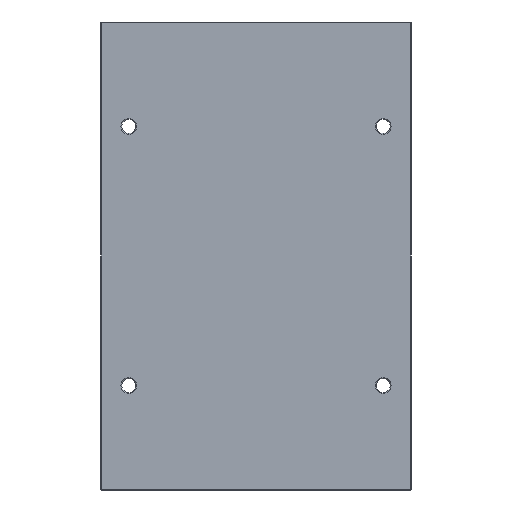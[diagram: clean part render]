
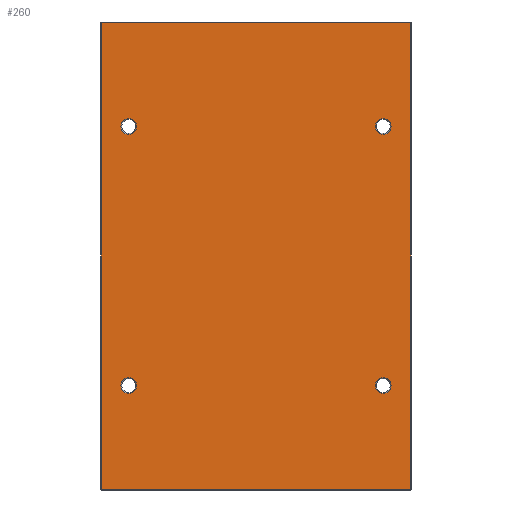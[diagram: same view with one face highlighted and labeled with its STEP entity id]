
A CAD part, front view. The second image highlights one B-rep face of the part: STEP entity #260.
In plain terms, the highlighted planar face has unit normal (0, -1, 0).
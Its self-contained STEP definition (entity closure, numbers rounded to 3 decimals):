
#4 = EDGE_CURVE ( 'NONE', #1602, #1121, #1631, .T. ) ;
#32 = VERTEX_POINT ( 'NONE', #924 ) ;
#42 = DIRECTION ( 'NONE',  ( 0., 0., 1. ) ) ;
#51 = ORIENTED_EDGE ( 'NONE', *, *, #372, .T. ) ;
#77 = CARTESIAN_POINT ( 'NONE',  ( 197., 0., 297. ) ) ;
#84 = CIRCLE ( 'NONE', #1288, 10. ) ;
#92 = AXIS2_PLACEMENT_3D ( 'NONE', #729, #1194, #42 ) ;
#127 = AXIS2_PLACEMENT_3D ( 'NONE', #616, #1436, #751 ) ;
#132 = EDGE_CURVE ( 'NONE', #1281, #1602, #1461, .T. ) ;
#169 = ORIENTED_EDGE ( 'NONE', *, *, #1420, .T. ) ;
#188 = CARTESIAN_POINT ( 'NONE',  ( 197., 0., -297. ) ) ;
#199 = CIRCLE ( 'NONE', #987, 10. ) ;
#208 = CARTESIAN_POINT ( 'NONE',  ( 162., 0., 155. ) ) ;
#245 = AXIS2_PLACEMENT_3D ( 'NONE', #1195, #457, #1315 ) ;
#258 = EDGE_CURVE ( 'NONE', #733, #1281, #740, .T. ) ;
#257 = VECTOR ( 'NONE', #582, 1000. ) ;
#260 = ADVANCED_FACE ( 'NONE', ( #994, #1644, #415, #1313, #706 ), #714, .F. ) ;
#285 = CARTESIAN_POINT ( 'NONE',  ( 0., 0., -297. ) ) ;
#288 = EDGE_LOOP ( 'NONE', ( #368, #1182 ) ) ;
#330 = CARTESIAN_POINT ( 'NONE',  ( 162., 0., 165. ) ) ;
#368 = ORIENTED_EDGE ( 'NONE', *, *, #1334, .T. ) ;
#372 = EDGE_CURVE ( 'NONE', #1287, #513, #1205, .T. ) ;
#388 = DIRECTION ( 'NONE',  ( 0., 1., 0. ) ) ;
#389 = CIRCLE ( 'NONE', #1179, 10. ) ;
#408 = EDGE_LOOP ( 'NONE', ( #1408, #1084, #1362, #665 ) ) ;
#415 = FACE_BOUND ( 'NONE', #288, .T. ) ;
#429 = CIRCLE ( 'NONE', #435, 10. ) ;
#435 = AXIS2_PLACEMENT_3D ( 'NONE', #330, #1203, #463 ) ;
#456 = DIRECTION ( 'NONE',  ( 0., 1., 0. ) ) ;
#457 = DIRECTION ( 'NONE',  ( 0., 1., 0. ) ) ;
#463 = DIRECTION ( 'NONE',  ( 0., 0., 1. ) ) ;
#481 = CARTESIAN_POINT ( 'NONE',  ( 162., 0., -155. ) ) ;
#511 = EDGE_LOOP ( 'NONE', ( #1651, #653 ) ) ;
#513 = VERTEX_POINT ( 'NONE', #625 ) ;
#517 = VERTEX_POINT ( 'NONE', #698 ) ;
#524 = CARTESIAN_POINT ( 'NONE',  ( -162., 0., 175. ) ) ;
#528 = CARTESIAN_POINT ( 'NONE',  ( -197., 0., 297. ) ) ;
#554 = EDGE_LOOP ( 'NONE', ( #951, #169 ) ) ;
#565 = CARTESIAN_POINT ( 'NONE',  ( 197., 0., 0. ) ) ;
#582 = DIRECTION ( 'NONE',  ( -1., 0., 0. ) ) ;
#583 = CIRCLE ( 'NONE', #127, 10. ) ;
#616 = CARTESIAN_POINT ( 'NONE',  ( 162., 0., 165. ) ) ;
#625 = CARTESIAN_POINT ( 'NONE',  ( -162., 0., -155. ) ) ;
#629 = CARTESIAN_POINT ( 'NONE',  ( -162., 0., -165. ) ) ;
#632 = EDGE_LOOP ( 'NONE', ( #51, #691 ) ) ;
#652 = DIRECTION ( 'NONE',  ( 0., 0., 1. ) ) ;
#653 = ORIENTED_EDGE ( 'NONE', *, *, #872, .T. ) ;
#665 = ORIENTED_EDGE ( 'NONE', *, *, #690, .T. ) ;
#690 = EDGE_CURVE ( 'NONE', #1121, #733, #1144, .T. ) ;
#691 = ORIENTED_EDGE ( 'NONE', *, *, #913, .T. ) ;
#698 = CARTESIAN_POINT ( 'NONE',  ( 162., 0., -175. ) ) ;
#706 = FACE_OUTER_BOUND ( 'NONE', #408, .T. ) ;
#714 = PLANE ( 'NONE',  #1655 ) ;
#729 = CARTESIAN_POINT ( 'NONE',  ( -162., 0., -165. ) ) ;
#730 = CARTESIAN_POINT ( 'NONE',  ( 0., 0., 0. ) ) ;
#733 = VERTEX_POINT ( 'NONE', #188 ) ;
#740 = LINE ( 'NONE', #565, #1063 ) ;
#745 = DIRECTION ( 'NONE',  ( 0., 1., 0. ) ) ;
#751 = DIRECTION ( 'NONE',  ( 0., 0., 1. ) ) ;
#752 = DIRECTION ( 'NONE',  ( 0., 0., 1. ) ) ;
#758 = DIRECTION ( 'NONE',  ( 0., 0., 1. ) ) ;
#761 = CARTESIAN_POINT ( 'NONE',  ( -162., 0., 165. ) ) ;
#788 = AXIS2_PLACEMENT_3D ( 'NONE', #761, #1575, #861 ) ;
#850 = CARTESIAN_POINT ( 'NONE',  ( -197., 0., -297. ) ) ;
#861 = DIRECTION ( 'NONE',  ( 0., 0., 1. ) ) ;
#872 = EDGE_CURVE ( 'NONE', #971, #517, #1434, .T. ) ;
#875 = DIRECTION ( 'NONE',  ( 0., 0., -1. ) ) ;
#889 = EDGE_CURVE ( 'NONE', #1523, #1513, #429, .T. ) ;
#913 = EDGE_CURVE ( 'NONE', #513, #1287, #389, .T. ) ;
#924 = CARTESIAN_POINT ( 'NONE',  ( -162., 0., 155. ) ) ;
#951 = ORIENTED_EDGE ( 'NONE', *, *, #889, .T. ) ;
#971 = VERTEX_POINT ( 'NONE', #481 ) ;
#987 = AXIS2_PLACEMENT_3D ( 'NONE', #1193, #456, #1312 ) ;
#994 = FACE_BOUND ( 'NONE', #511, .T. ) ;
#1036 = EDGE_CURVE ( 'NONE', #517, #971, #199, .T. ) ;
#1063 = VECTOR ( 'NONE', #652, 1000. ) ;
#1084 = ORIENTED_EDGE ( 'NONE', *, *, #132, .T. ) ;
#1108 = VECTOR ( 'NONE', #1404, 1000. ) ;
#1121 = VERTEX_POINT ( 'NONE', #850 ) ;
#1128 = CARTESIAN_POINT ( 'NONE',  ( -197., 0., 0. ) ) ;
#1131 = CARTESIAN_POINT ( 'NONE',  ( -162., 0., 165. ) ) ;
#1144 = LINE ( 'NONE', #285, #1108 ) ;
#1179 = AXIS2_PLACEMENT_3D ( 'NONE', #629, #1443, #758 ) ;
#1182 = ORIENTED_EDGE ( 'NONE', *, *, #1473, .T. ) ;
#1193 = CARTESIAN_POINT ( 'NONE',  ( 162., 0., -165. ) ) ;
#1194 = DIRECTION ( 'NONE',  ( 0., 1., 0. ) ) ;
#1195 = CARTESIAN_POINT ( 'NONE',  ( 162., 0., -165. ) ) ;
#1203 = DIRECTION ( 'NONE',  ( 0., 1., 0. ) ) ;
#1205 = CIRCLE ( 'NONE', #92, 10. ) ;
#1257 = DIRECTION ( 'NONE',  ( 0., 0., 1. ) ) ;
#1281 = VERTEX_POINT ( 'NONE', #77 ) ;
#1287 = VERTEX_POINT ( 'NONE', #1610 ) ;
#1288 = AXIS2_PLACEMENT_3D ( 'NONE', #1131, #388, #1257 ) ;
#1300 = VECTOR ( 'NONE', #875, 1000. ) ;
#1312 = DIRECTION ( 'NONE',  ( 0., 0., 1. ) ) ;
#1313 = FACE_BOUND ( 'NONE', #632, .T. ) ;
#1315 = DIRECTION ( 'NONE',  ( 0., 0., 1. ) ) ;
#1334 = EDGE_CURVE ( 'NONE', #32, #1345, #84, .T. ) ;
#1345 = VERTEX_POINT ( 'NONE', #524 ) ;
#1362 = ORIENTED_EDGE ( 'NONE', *, *, #4, .T. ) ;
#1367 = CIRCLE ( 'NONE', #788, 10. ) ;
#1404 = DIRECTION ( 'NONE',  ( 1., 0., 0. ) ) ;
#1408 = ORIENTED_EDGE ( 'NONE', *, *, #258, .T. ) ;
#1420 = EDGE_CURVE ( 'NONE', #1513, #1523, #583, .T. ) ;
#1434 = CIRCLE ( 'NONE', #245, 10. ) ;
#1436 = DIRECTION ( 'NONE',  ( 0., 1., 0. ) ) ;
#1443 = DIRECTION ( 'NONE',  ( 0., 1., 0. ) ) ;
#1461 = LINE ( 'NONE', #1582, #257 ) ;
#1473 = EDGE_CURVE ( 'NONE', #1345, #32, #1367, .T. ) ;
#1513 = VERTEX_POINT ( 'NONE', #1592 ) ;
#1523 = VERTEX_POINT ( 'NONE', #208 ) ;
#1575 = DIRECTION ( 'NONE',  ( 0., 1., 0. ) ) ;
#1582 = CARTESIAN_POINT ( 'NONE',  ( 0., 0., 297. ) ) ;
#1592 = CARTESIAN_POINT ( 'NONE',  ( 162., 0., 175. ) ) ;
#1602 = VERTEX_POINT ( 'NONE', #528 ) ;
#1610 = CARTESIAN_POINT ( 'NONE',  ( -162., 0., -175. ) ) ;
#1631 = LINE ( 'NONE', #1128, #1300 ) ;
#1644 = FACE_BOUND ( 'NONE', #554, .T. ) ;
#1651 = ORIENTED_EDGE ( 'NONE', *, *, #1036, .T. ) ;
#1655 = AXIS2_PLACEMENT_3D ( 'NONE', #730, #745, #752 ) ;
